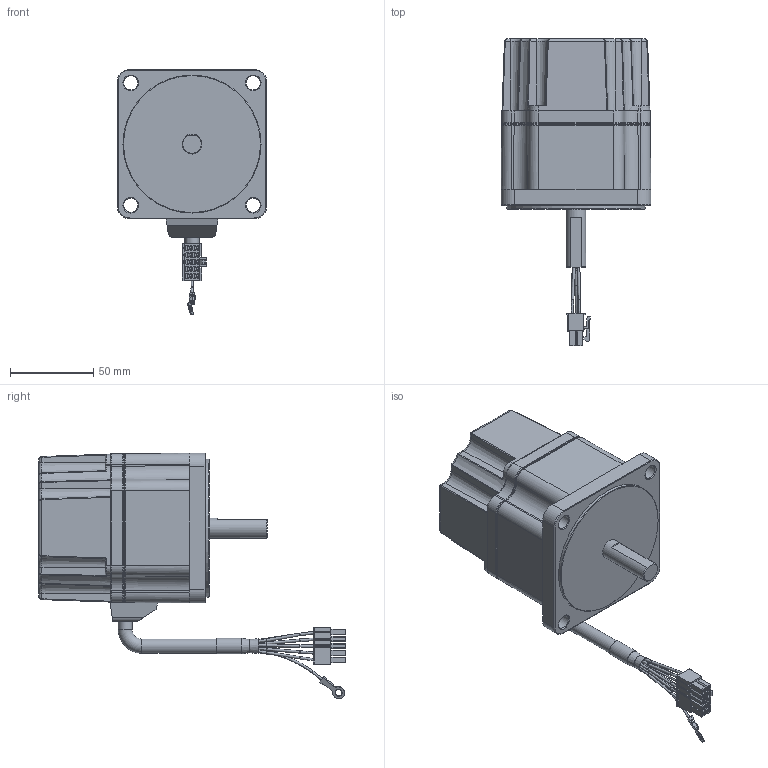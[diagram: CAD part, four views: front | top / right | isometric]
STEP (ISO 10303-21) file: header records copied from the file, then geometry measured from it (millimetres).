
FILE_DESCRIPTION((''),'2;1');
FILE_NAME('C:\Users\LEEKA\Desktop\홈페이지 업로드용\3D 단품\B Series brake\B Series 90w_brake_S.stp','2022-01-28T10:53:04',('LEEKA'),(''),'Autodesk Inventor 2012','Autodesk Inventor 2012','');
FILE_SCHEMA(('AUTOMOTIVE_DESIGN { 1 0 10303 214 1 1 1 1 }'));
Length unit declared in the file: millimetre
Products named in the file (3): 조립품21; K9 BRAKE COVER; K9BS90N□
Assembly tree (2 placements, depth 2):
  조립품21
    K9 BRAKE COVER
    K9BS90N□
Bounding box: 90 x 184.9 x 147.66 mm (x, y, z)
Volume: 477251.6 mm3; surface area: 97580.9 mm2
Topology: 2 solids, 3 shells, 1129 faces, 2964 edges, 1818 vertices
Faces by surface type: plane 634, cylinder 192, bspline 172, torus 71, cone 60
Full cylindrical faces by diameter (mm): 1.45 x3, 2 x5, 4.2 x4, 4.3 x1, 7 x4, 8.5 x6, 9 x1, 9.4 x1, 12 x2, 83 x1, 86.5 x1
Entity records: 40455 total; most frequent: CARTESIAN_POINT 12742, ORIENTED_EDGE 5730, DIRECTION 5283, EDGE_CURVE 2865, VECTOR 1967, LINE 1967, VERTEX_POINT 1806, AXIS2_PLACEMENT_3D 1658
